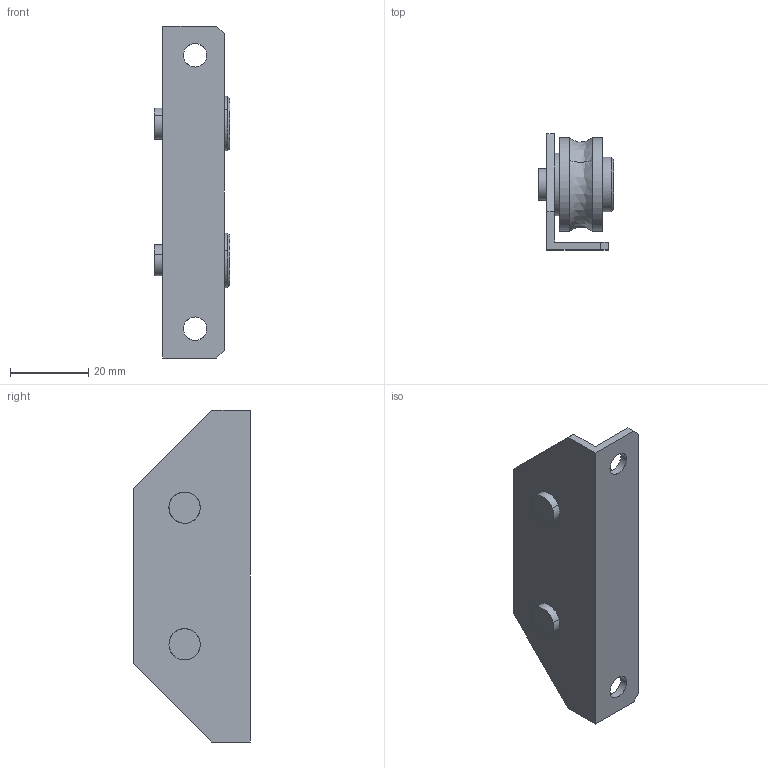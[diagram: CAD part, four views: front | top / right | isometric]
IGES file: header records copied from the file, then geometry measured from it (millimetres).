
Global section: file name: No Iges File Name specified; native system: AutoDesk Inventor R11.0; preprocessor: AutoDesk Inventor Iges Exporter R11.0; author: No Author specified; organization: No Organization specified; date: 20190511.103938; units: millimetre
Bounding box: 19.4 x 29.8 x 85 mm (x, y, z)
Surface area: 11003.3 mm2 (no closed solid volume)
Topology: 0 solids, 0 shells, 58 faces, 400 edges, 400 vertices
Faces by surface type: bspline 58
